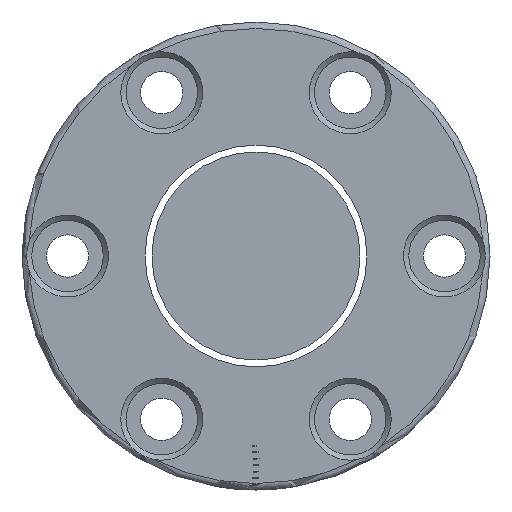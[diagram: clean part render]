
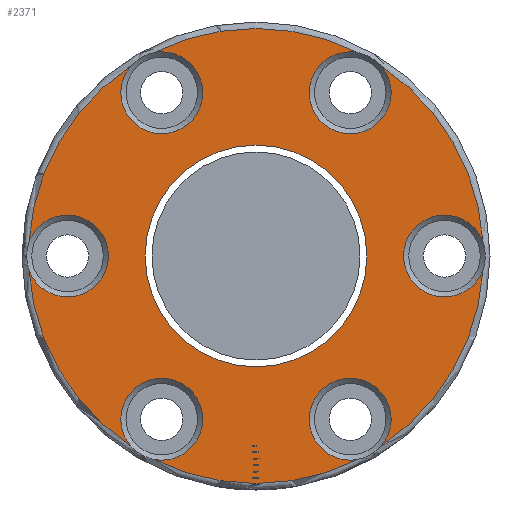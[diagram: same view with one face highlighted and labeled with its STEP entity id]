
A CAD part, left-side view. The second image highlights one B-rep face of the part: STEP entity #2371.
In plain terms, the highlighted planar face has unit normal (-1, 0, 0).
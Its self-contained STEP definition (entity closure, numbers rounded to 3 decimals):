
#20 = AXIS2_PLACEMENT_3D ( 'NONE', #3353, #647, #2175 ) ;
#108 = CARTESIAN_POINT ( 'NONE',  ( -52., 15.641, -31.31 ) ) ;
#184 = ORIENTED_EDGE ( 'NONE', *, *, #377, .T. ) ;
#188 = DIRECTION ( 'NONE',  ( 1., 0., 0. ) ) ;
#208 = VERTEX_POINT ( 'NONE', #3549 ) ;
#252 = DIRECTION ( 'NONE',  ( 1., 0., 0. ) ) ;
#307 = DIRECTION ( 'NONE',  ( -1., 0., 0. ) ) ;
#377 = EDGE_CURVE ( 'NONE', #2859, #1292, #3151, .T. ) ;
#380 = AXIS2_PLACEMENT_3D ( 'NONE', #1426, #1161, #3858 ) ;
#389 = CARTESIAN_POINT ( 'NONE',  ( -52., -19.295, -29.201 ) ) ;
#397 = VERTEX_POINT ( 'NONE', #1644 ) ;
#458 = VERTEX_POINT ( 'NONE', #3414 ) ;
#543 = CIRCLE ( 'NONE', #598, 35. ) ;
#566 = CARTESIAN_POINT ( 'NONE',  ( -52., 0., 0. ) ) ;
#598 = AXIS2_PLACEMENT_3D ( 'NONE', #1957, #3628, #3318 ) ;
#647 = DIRECTION ( 'NONE',  ( -1., 0., 0. ) ) ;
#655 = EDGE_CURVE ( 'NONE', #945, #2859, #543, .T. ) ;
#656 = CIRCLE ( 'NONE', #2830, 6.3 ) ;
#673 = ORIENTED_EDGE ( 'NONE', *, *, #1863, .T. ) ;
#678 = DIRECTION ( 'NONE',  ( 0., -1., 0. ) ) ;
#687 = CARTESIAN_POINT ( 'NONE',  ( -52., -19.295, 29.201 ) ) ;
#697 = AXIS2_PLACEMENT_3D ( 'NONE', #566, #307, #2027 ) ;
#754 = AXIS2_PLACEMENT_3D ( 'NONE', #1162, #252, #1735 ) ;
#755 = ORIENTED_EDGE ( 'NONE', *, *, #1192, .T. ) ;
#777 = EDGE_CURVE ( 'NONE', #397, #945, #2029, .T. ) ;
#844 = VERTEX_POINT ( 'NONE', #687 ) ;
#915 = AXIS2_PLACEMENT_3D ( 'NONE', #3052, #2756, #2110 ) ;
#945 = VERTEX_POINT ( 'NONE', #108 ) ;
#946 = CIRCLE ( 'NONE', #380, 6.3 ) ;
#970 = CARTESIAN_POINT ( 'NONE',  ( -52., 15.641, 31.31 ) ) ;
#979 = CARTESIAN_POINT ( 'NONE',  ( -52., 0., 0. ) ) ;
#1000 = EDGE_LOOP ( 'NONE', ( #673, #2938, #2287, #1129, #1710, #3491, #1044, #3527, #2832, #1937, #184, #2278 ) ) ;
#1044 = ORIENTED_EDGE ( 'NONE', *, *, #3149, .T. ) ;
#1056 = CARTESIAN_POINT ( 'NONE',  ( -52., -14.5, -25.115 ) ) ;
#1129 = ORIENTED_EDGE ( 'NONE', *, *, #1559, .T. ) ;
#1161 = DIRECTION ( 'NONE',  ( 1., 0., 0. ) ) ;
#1162 = CARTESIAN_POINT ( 'NONE',  ( -52., -29., 0. ) ) ;
#1181 = EDGE_CURVE ( 'NONE', #1701, #3384, #656, .T. ) ;
#1183 = VERTEX_POINT ( 'NONE', #3803 ) ;
#1192 = EDGE_CURVE ( 'NONE', #3324, #3324, #2084, .T. ) ;
#1233 = PLANE ( 'NONE',  #1813 ) ;
#1278 = DIRECTION ( 'NONE',  ( -1., 0., 0. ) ) ;
#1292 = VERTEX_POINT ( 'NONE', #389 ) ;
#1400 = EDGE_LOOP ( 'NONE', ( #755 ) ) ;
#1426 = CARTESIAN_POINT ( 'NONE',  ( -52., -14.5, 25.115 ) ) ;
#1530 = FACE_OUTER_BOUND ( 'NONE', #1000, .T. ) ;
#1547 = FACE_BOUND ( 'NONE', #1400, .T. ) ;
#1559 = EDGE_CURVE ( 'NONE', #1183, #1701, #1652, .T. ) ;
#1563 = CARTESIAN_POINT ( 'NONE',  ( -52., -15.641, -31.31 ) ) ;
#1590 = AXIS2_PLACEMENT_3D ( 'NONE', #2400, #1798, #2159 ) ;
#1644 = CARTESIAN_POINT ( 'NONE',  ( -52., 19.295, -29.201 ) ) ;
#1652 = CIRCLE ( 'NONE', #1962, 35. ) ;
#1701 = VERTEX_POINT ( 'NONE', #970 ) ;
#1704 = CIRCLE ( 'NONE', #20, 35. ) ;
#1710 = ORIENTED_EDGE ( 'NONE', *, *, #1181, .T. ) ;
#1711 = DIRECTION ( 'NONE',  ( 0., 1., 0. ) ) ;
#1735 = DIRECTION ( 'NONE',  ( 0., -1., 0. ) ) ;
#1798 = DIRECTION ( 'NONE',  ( 1., 0., 0. ) ) ;
#1813 = AXIS2_PLACEMENT_3D ( 'NONE', #2420, #3610, #2730 ) ;
#1843 = CARTESIAN_POINT ( 'NONE',  ( -52., 17.05, 0. ) ) ;
#1863 = EDGE_CURVE ( 'NONE', #208, #458, #2118, .T. ) ;
#1937 = ORIENTED_EDGE ( 'NONE', *, *, #655, .T. ) ;
#1950 = DIRECTION ( 'NONE',  ( 0., -1., 0. ) ) ;
#1957 = CARTESIAN_POINT ( 'NONE',  ( -52., 0., 0. ) ) ;
#1962 = AXIS2_PLACEMENT_3D ( 'NONE', #3363, #1278, #678 ) ;
#2008 = AXIS2_PLACEMENT_3D ( 'NONE', #979, #3317, #2102 ) ;
#2027 = DIRECTION ( 'NONE',  ( 0., -1., 0. ) ) ;
#2029 = CIRCLE ( 'NONE', #1590, 6.3 ) ;
#2084 = CIRCLE ( 'NONE', #3276, 17.05 ) ;
#2102 = DIRECTION ( 'NONE',  ( 0., -1., 0. ) ) ;
#2110 = DIRECTION ( 'NONE',  ( 0., -1., 0. ) ) ;
#2118 = CIRCLE ( 'NONE', #754, 6.3 ) ;
#2159 = DIRECTION ( 'NONE',  ( 0., -1., 0. ) ) ;
#2175 = DIRECTION ( 'NONE',  ( 0., -1., 0. ) ) ;
#2278 = ORIENTED_EDGE ( 'NONE', *, *, #3806, .T. ) ;
#2287 = ORIENTED_EDGE ( 'NONE', *, *, #2520, .T. ) ;
#2288 = DIRECTION ( 'NONE',  ( 1., 0., 0. ) ) ;
#2371 = ADVANCED_FACE ( 'NONE', ( #1530, #1547 ), #1233, .T. ) ;
#2375 = CIRCLE ( 'NONE', #2882, 6.3 ) ;
#2390 = CARTESIAN_POINT ( 'NONE',  ( -52., 34.936, -2.109 ) ) ;
#2400 = CARTESIAN_POINT ( 'NONE',  ( -52., 14.5, -25.115 ) ) ;
#2420 = CARTESIAN_POINT ( 'NONE',  ( -52., 36., 0. ) ) ;
#2465 = CIRCLE ( 'NONE', #915, 35. ) ;
#2519 = AXIS2_PLACEMENT_3D ( 'NONE', #1056, #188, #3760 ) ;
#2520 = EDGE_CURVE ( 'NONE', #844, #1183, #946, .T. ) ;
#2534 = DIRECTION ( 'NONE',  ( 1., 0., 0. ) ) ;
#2580 = CARTESIAN_POINT ( 'NONE',  ( -52., 29., 0. ) ) ;
#2653 = CARTESIAN_POINT ( 'NONE',  ( -52., 0., 0. ) ) ;
#2663 = VERTEX_POINT ( 'NONE', #2934 ) ;
#2730 = DIRECTION ( 'NONE',  ( 0., -1., 0. ) ) ;
#2756 = DIRECTION ( 'NONE',  ( -1., 0., 0. ) ) ;
#2830 = AXIS2_PLACEMENT_3D ( 'NONE', #2930, #2288, #3193 ) ;
#2832 = ORIENTED_EDGE ( 'NONE', *, *, #777, .T. ) ;
#2843 = EDGE_CURVE ( 'NONE', #3384, #2663, #3685, .T. ) ;
#2859 = VERTEX_POINT ( 'NONE', #1563 ) ;
#2882 = AXIS2_PLACEMENT_3D ( 'NONE', #2580, #2534, #1950 ) ;
#2930 = CARTESIAN_POINT ( 'NONE',  ( -52., 14.5, 25.115 ) ) ;
#2934 = CARTESIAN_POINT ( 'NONE',  ( -52., 34.936, 2.109 ) ) ;
#2938 = ORIENTED_EDGE ( 'NONE', *, *, #3379, .T. ) ;
#2946 = DIRECTION ( 'NONE',  ( 1., 0., 0. ) ) ;
#3052 = CARTESIAN_POINT ( 'NONE',  ( -52., 0., 0. ) ) ;
#3062 = CIRCLE ( 'NONE', #697, 35. ) ;
#3129 = EDGE_CURVE ( 'NONE', #3802, #397, #1704, .T. ) ;
#3149 = EDGE_CURVE ( 'NONE', #2663, #3802, #2375, .T. ) ;
#3151 = CIRCLE ( 'NONE', #2519, 6.3 ) ;
#3193 = DIRECTION ( 'NONE',  ( 0., -1., 0. ) ) ;
#3222 = CARTESIAN_POINT ( 'NONE',  ( -52., 19.295, 29.201 ) ) ;
#3276 = AXIS2_PLACEMENT_3D ( 'NONE', #2653, #2946, #1711 ) ;
#3317 = DIRECTION ( 'NONE',  ( -1., 0., 0. ) ) ;
#3318 = DIRECTION ( 'NONE',  ( 0., -1., 0. ) ) ;
#3324 = VERTEX_POINT ( 'NONE', #1843 ) ;
#3353 = CARTESIAN_POINT ( 'NONE',  ( -52., 0., 0. ) ) ;
#3363 = CARTESIAN_POINT ( 'NONE',  ( -52., 0., 0. ) ) ;
#3379 = EDGE_CURVE ( 'NONE', #458, #844, #3062, .T. ) ;
#3384 = VERTEX_POINT ( 'NONE', #3222 ) ;
#3414 = CARTESIAN_POINT ( 'NONE',  ( -52., -34.936, 2.109 ) ) ;
#3491 = ORIENTED_EDGE ( 'NONE', *, *, #2843, .T. ) ;
#3527 = ORIENTED_EDGE ( 'NONE', *, *, #3129, .T. ) ;
#3549 = CARTESIAN_POINT ( 'NONE',  ( -52., -34.936, -2.109 ) ) ;
#3610 = DIRECTION ( 'NONE',  ( -1., 0., 0. ) ) ;
#3628 = DIRECTION ( 'NONE',  ( -1., 0., 0. ) ) ;
#3685 = CIRCLE ( 'NONE', #2008, 35. ) ;
#3760 = DIRECTION ( 'NONE',  ( 0., -1., 0. ) ) ;
#3802 = VERTEX_POINT ( 'NONE', #2390 ) ;
#3803 = CARTESIAN_POINT ( 'NONE',  ( -52., -15.641, 31.31 ) ) ;
#3806 = EDGE_CURVE ( 'NONE', #1292, #208, #2465, .T. ) ;
#3858 = DIRECTION ( 'NONE',  ( 0., -1., 0. ) ) ;
